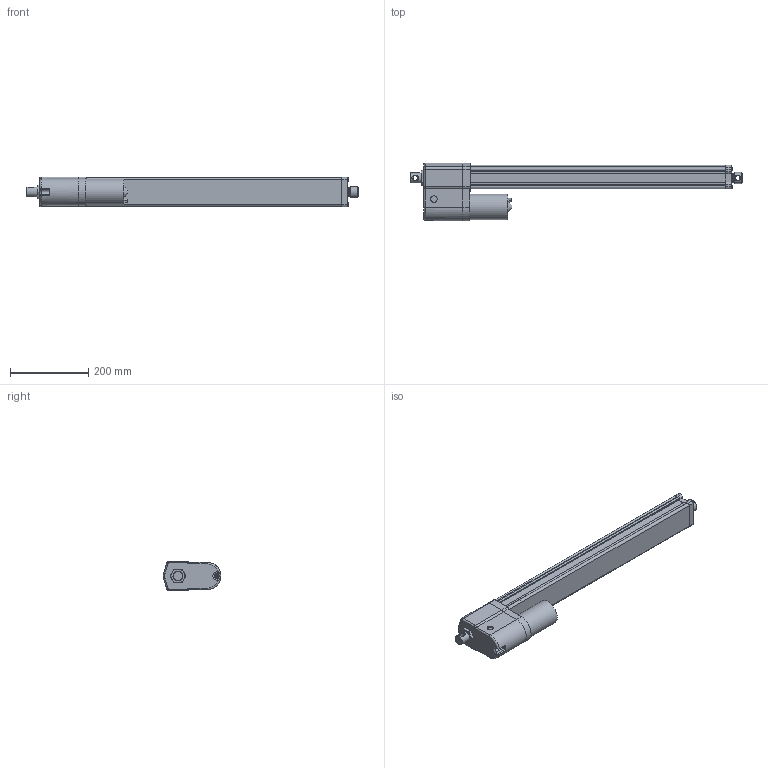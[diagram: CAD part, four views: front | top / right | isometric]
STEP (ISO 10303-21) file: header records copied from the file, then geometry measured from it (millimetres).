
FILE_DESCRIPTION( ( 'STEP AP203' ), '1' );
FILE_NAME( 'p:/temp/worker_439/temp/exporttempdir_6968_836_1QaUT/format_0/DA24-21B65M50M0NPO-AMM.stp', '2020-04-12T18:23:39', ( 'License CC BY-ND 4.0' ), ( 'CADENAS' ), ' ', 'PARTsolutions', ' ' );
FILE_SCHEMA( ( 'CONFIG_CONTROL_DESIGN' ) );
Length unit declared in the file: millimetre
Products named in the file (8): DA24-21B65M50M0NPO-AMM; _ELECTRAK-LA14-DA24-21B65MM0NPO-50M-EU-REAR; _Electrak-10-EU-RA-D602700; _D602768eu; _ELECTRAK-LA14-DA24--MOTOR; _DA24-21B65M50M0NPOAMMtube; _ELECTRAK-LA14-DA24--50-PLATE; _ELECTRAK-LA14-DA24--5021B65MNPOM-ROD
Assembly tree (7 placements, depth 2):
  DA24-21B65M50M0NPO-AMM
    _ELECTRAK-LA14-DA24-21B65MM0NPO-50M-EU-REAR
    _Electrak-10-EU-RA-D602700
    _D602768eu
    _ELECTRAK-LA14-DA24--MOTOR
    _DA24-21B65M50M0NPOAMMtube
    _ELECTRAK-LA14-DA24--50-PLATE
    _ELECTRAK-LA14-DA24--5021B65MNPOM-ROD
Bounding box: 848.95 x 148 x 76.2 mm (x, y, z)
Volume: 2636962.8 mm3; surface area: 629507.3 mm2
Topology: 7 solids, 8 shells, 378 faces, 942 edges, 611 vertices
Faces by surface type: plane 184, cylinder 131, cone 45, torus 14, bspline 4
Full cylindrical faces by diameter (mm): 4 x2, 4.126 x1, 4.8 x5, 5 x5, 5.6 x4, 7.878 x4, 9.398 x1, 12.2 x2, 16 x1, 16.5 x1, 21.8 x1, 25.2 x1, 25.4 x1, 26.24 x1, 28.5 x1, 28.6 x2, 47.625 x1, 65.3 x1
Entity records: 11834 total; most frequent: CARTESIAN_POINT 2729, DIRECTION 1869, ORIENTED_EDGE 1744, EDGE_CURVE 872, AXIS2_PLACEMENT_3D 702, VERTEX_POINT 602, EDGE_LOOP 485, LINE 465
